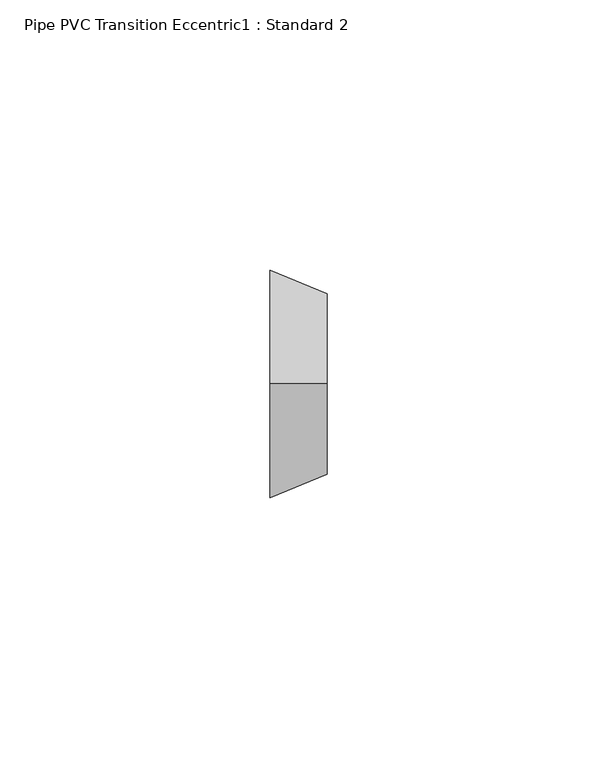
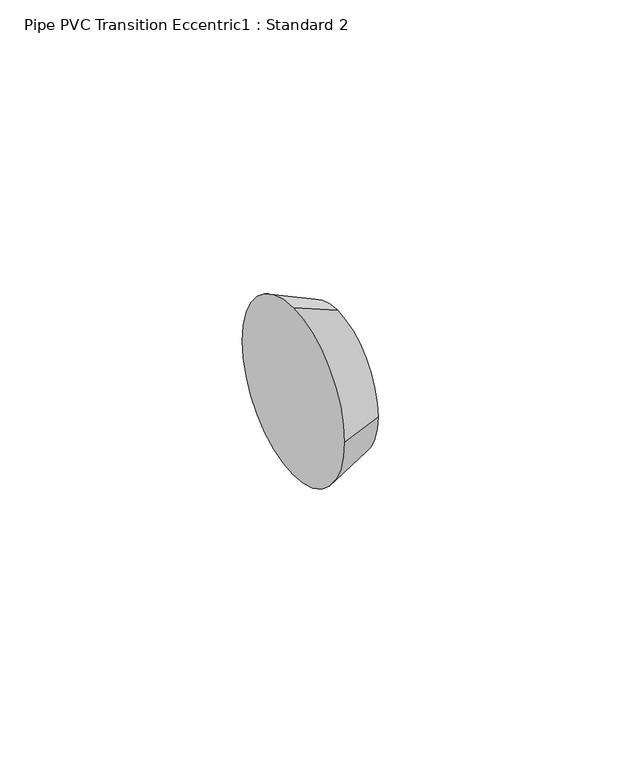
"""IFC4 building model written with IfcOpenShell, lengths in millimetres: pipe fitting geometry, Pipe PVC Transition Eccentric1 : Standard 2."""

from ifc_helpers import new_model, si_unit, frame, origin, place, context, project, spatial, polyline, circle_curve, source, transform, mapped, element, save
from ifc_brep_helpers import plane_surface, revolved_surface, advanced_brep


def pipe_pvc_transition_eccentric1_standard_2_dc0409ef(model_context):
    return source(origin(), model_context, "Body", "AdvancedBrep", [
        advanced_brep(
        [(10.541, -88.4555, 16.7005), (10.541, -105.156, 0.0), (10.541, -88.4555, -16.7005), (10.541, -71.755, 0.0), (0.0, -88.4555, 21.082), (0.0, -67.3735, 0.0), (0.0, -88.4555, -21.082), (0.0, -109.5375, 0.0)],
        [
            (0, 1, circle_curve(frame((10.541, -88.4555, 0.0), z_axis=(1.0, 0.0, 0.0), x_axis=(0.0, 0.0, 1.0)), 16.7005)),
            (1, 2, circle_curve(frame((10.541, -88.4555, 0.0), z_axis=(1.0, 0.0, 0.0), x_axis=(0.0, -1.0, 0.0)), 16.7005)),
            (2, 3, circle_curve(frame((10.541, -88.4555, 0.0), z_axis=(1.0, 0.0, -1.3804358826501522e-12), x_axis=(-1.3803114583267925e-12, 0.0, -1.0)), 16.7005)),
            (3, 0, circle_curve(frame((10.541, -88.4555, 0.0), z_axis=(1.0, 0.0, 0.0), x_axis=(0.0, 1.0, 0.0)), 16.7005)),
            (4, 5, circle_curve(frame((0.0, -88.4555, 0.0), z_axis=(-1.0, 0.0, 0.0), x_axis=(0.0, 1.0, 0.0)), 21.082)),
            (5, 6, circle_curve(frame((0.0, -88.4555, 0.0), z_axis=(-1.0, 0.0, 1.3804358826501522e-12), x_axis=(-1.3803114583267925e-12, 0.0, -1.0)), 21.082)),
            (6, 7, circle_curve(frame((0.0, -88.4555, 0.0), z_axis=(-1.0, 0.0, 0.0), x_axis=(0.0, -1.0, 0.0)), 21.082)),
            (7, 4, circle_curve(frame((0.0, -88.4555, 0.0), z_axis=(-1.0, 0.0, 0.0), x_axis=(0.0, 0.0, 1.0)), 21.082)),
            (7, 1),
            (0, 4),
            (6, 2),
            (5, 3),
        ],
        [
            plane_surface(frame((10.541, -88.4555, 0.0), z_axis=(1.0, 0.0, 0.0), x_axis=(0.0, -1.0, 0.0))),
            plane_surface(frame((0.0, -88.4555, 0.0), z_axis=(-1.0, 0.0, 0.0), x_axis=(0.0, -1.0, 0.0))),
            revolved_surface(polyline([(10.540999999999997, -88.4555, 16.700500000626), (0.0, -88.4555, 21.082)]), (50.7190145, -88.4555, 0.0), (-1.0, 0.0, 0.0)),
            revolved_surface(polyline([(10.540999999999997, -105.156000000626, 0.0), (0.0, -109.5375, 0.0)]), (50.7190145, -88.4555, 0.0), (-1.0, 0.0, 0.0)),
            revolved_surface(polyline([(10.540999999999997, -88.4555, -16.700500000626), (-2.9103830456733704e-11, -88.4555, -21.082000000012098)]), (50.7190145, -88.4555, 0.0), (-1.0, 0.0, 1.3804358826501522e-12)),
            revolved_surface(polyline([(10.540999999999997, -71.75499999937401, 0.0), (0.0, -67.3735, 0.0)]), (50.7190145, -88.4555, 0.0), (-1.0, 0.0, 0.0)),
        ],
        [
            (0, [[1, 2, 3, 4]]),
            (1, [[5, 6, 7, 8]]),
            (2, [[-8, 9, -1, 10]]),
            (3, [[-7, 11, -2, -9]]),
            (4, [[-6, 12, -3, -11]]),
            (5, [[-5, -10, -4, -12]]),
        ],
    ),
        advanced_brep(
        [(10.541, -88.4555, 16.7005), (10.541, -105.156, 0.0), (10.541, -88.4555, -16.7005), (10.541, -71.755, 0.0), (0.0, -88.4555, 21.082), (0.0, -67.3735, 0.0), (0.0, -88.4555, -21.082), (0.0, -109.5375, 0.0)],
        [
            (0, 1, circle_curve(frame((10.541, -88.4555, 0.0), z_axis=(1.0, 0.0, 0.0), x_axis=(0.0, 0.0, 1.0)), 16.7005)),
            (1, 2, circle_curve(frame((10.541, -88.4555, 0.0), z_axis=(1.0, 0.0, 0.0), x_axis=(0.0, -1.0, 0.0)), 16.7005)),
            (2, 3, circle_curve(frame((10.541, -88.4555, 0.0), z_axis=(1.0, 0.0, 0.0), x_axis=(0.0, 0.0, -1.0)), 16.7005)),
            (3, 0, circle_curve(frame((10.541, -88.4555, 0.0), z_axis=(1.0, 0.0, 0.0), x_axis=(0.0, 1.0, 0.0)), 16.7005)),
            (4, 5, circle_curve(frame((0.0, -88.4555, 0.0), z_axis=(-1.0, 0.0, 0.0), x_axis=(0.0, 1.0, 0.0)), 21.082)),
            (5, 6, circle_curve(frame((0.0, -88.4555, 0.0), z_axis=(-1.0, 0.0, 0.0), x_axis=(0.0, 0.0, -1.0)), 21.082)),
            (6, 7, circle_curve(frame((0.0, -88.4555, 0.0), z_axis=(-1.0, 0.0, 0.0), x_axis=(0.0, -1.0, 0.0)), 21.082)),
            (7, 4, circle_curve(frame((0.0, -88.4555, 0.0), z_axis=(-1.0, 0.0, 0.0), x_axis=(0.0, 0.0, 1.0)), 21.082)),
            (7, 1),
            (0, 4),
            (6, 2),
            (5, 3),
        ],
        [
            plane_surface(frame((10.541, -88.4555, 0.0), z_axis=(1.0, 0.0, 0.0), x_axis=(0.0, -1.0, 0.0))),
            plane_surface(frame((0.0, -88.4555, 0.0), z_axis=(-1.0, 0.0, 0.0), x_axis=(0.0, -1.0, 0.0))),
            revolved_surface(polyline([(10.540999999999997, -88.4555, 16.700500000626), (0.0, -88.4555, 21.082)]), (50.7190145, -88.4555, 0.0), (-1.0, 0.0, 0.0)),
            revolved_surface(polyline([(10.540999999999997, -105.156000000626, 0.0), (0.0, -109.5375, 0.0)]), (50.7190145, -88.4555, 0.0), (-1.0, 0.0, 0.0)),
            revolved_surface(polyline([(10.540999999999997, -88.4555, -16.700500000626), (0.0, -88.4555, -21.082)]), (50.7190145, -88.4555, 0.0), (-1.0, 0.0, 0.0)),
            revolved_surface(polyline([(10.540999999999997, -71.75499999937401, 0.0), (0.0, -67.3735, 0.0)]), (50.7190145, -88.4555, 0.0), (-1.0, 0.0, 0.0)),
        ],
        [
            (0, [[1, 2, 3, 4]]),
            (1, [[5, 6, 7, 8]]),
            (2, [[-8, 9, -1, 10]]),
            (3, [[-7, 11, -2, -9]]),
            (4, [[-6, 12, -3, -11]]),
            (5, [[-5, -10, -4, -12]]),
        ],
    ),
    ])


if __name__ == "__main__":
    model = new_model("IFC4")
    model_context = context("Model", 3, world=origin())
    ifc_project = project(units=[si_unit("LENGTHUNIT", "METRE", prefix="MILLI")], contexts=[model_context])
    site = spatial("IfcSite", under=ifc_project)
    building = spatial("IfcBuilding", under=site)
    placement = place(None, origin())
    pipe_pvc_transition_eccentric1_standard_2_shape = pipe_pvc_transition_eccentric1_standard_2_dc0409ef(model_context)
    element("IfcPipeFitting", 1, ObjectType="Pipe PVC Transition Eccentric1 : Standard 2", at=placement, inside=building, context=model_context, shape_type="MappedRepresentation", body=[
        mapped(pipe_pvc_transition_eccentric1_standard_2_shape, transform((0.0, 0.0, 0.0), x_axis=(1.0, 0.0, 0.0), y_axis=(0.0, 1.0, 0.0), z_axis=(0.0, 0.0, 1.0))),
    ])
    save(model, "model.ifc")
